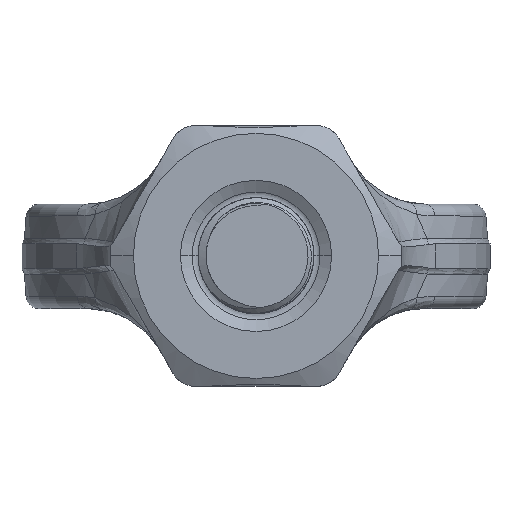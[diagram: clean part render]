
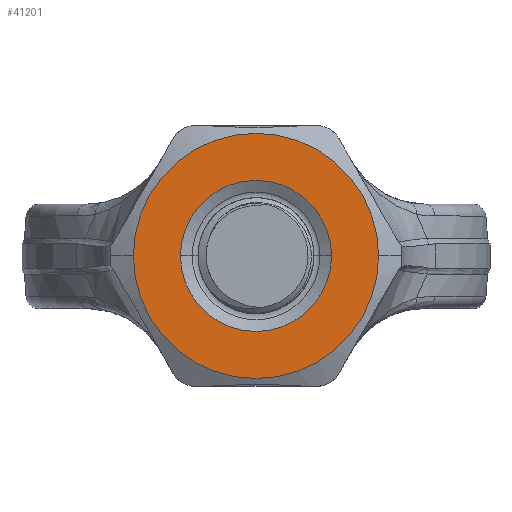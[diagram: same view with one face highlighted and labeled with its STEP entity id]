
A CAD part, top view. The second image highlights one B-rep face of the part: STEP entity #41201.
In plain terms, the highlighted planar face has unit normal (0, 0, 1).
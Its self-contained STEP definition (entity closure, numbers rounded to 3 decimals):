
#342 = EDGE_CURVE ( 'NONE', #30231, #4648, #31722, .T. ) ;
#1132 = CARTESIAN_POINT ( 'NONE',  ( 23.5, 0., 58.15 ) ) ;
#3625 = VERTEX_POINT ( 'NONE', #41823 ) ;
#3833 = EDGE_CURVE ( 'NONE', #4648, #30231, #42287, .T. ) ;
#4285 = DIRECTION ( 'NONE',  ( 0., 0., 1. ) ) ;
#4648 = VERTEX_POINT ( 'NONE', #10209 ) ;
#4814 = AXIS2_PLACEMENT_3D ( 'NONE', #12177, #29762, #15717 ) ;
#4929 = ORIENTED_EDGE ( 'NONE', *, *, #3833, .F. ) ;
#7315 = DIRECTION ( 'NONE',  ( 1., 0., 0. ) ) ;
#9247 = EDGE_LOOP ( 'NONE', ( #17593, #4929 ) ) ;
#10209 = CARTESIAN_POINT ( 'NONE',  ( -14.477, 0., 58.15 ) ) ;
#12177 = CARTESIAN_POINT ( 'NONE',  ( 0., 0., 58.15 ) ) ;
#13282 = CIRCLE ( 'NONE', #39484, 23.5 ) ;
#13959 = DIRECTION ( 'NONE',  ( 1., 0., 0. ) ) ;
#15717 = DIRECTION ( 'NONE',  ( 1., 0., 0. ) ) ;
#17309 = EDGE_CURVE ( 'NONE', #3625, #21280, #18564, .T. ) ;
#17593 = ORIENTED_EDGE ( 'NONE', *, *, #342, .F. ) ;
#17932 = PLANE ( 'NONE',  #40924 ) ;
#18344 = CARTESIAN_POINT ( 'NONE',  ( 0., 0., 58.15 ) ) ;
#18371 = EDGE_CURVE ( 'NONE', #21280, #3625, #13282, .T. ) ;
#18564 = CIRCLE ( 'NONE', #38000, 23.5 ) ;
#20279 = ORIENTED_EDGE ( 'NONE', *, *, #17309, .T. ) ;
#20634 = DIRECTION ( 'NONE',  ( 0., 0., 1. ) ) ;
#21280 = VERTEX_POINT ( 'NONE', #1132 ) ;
#21453 = DIRECTION ( 'NONE',  ( 0., 0., 1. ) ) ;
#24510 = FACE_BOUND ( 'NONE', #9247, .T. ) ;
#25738 = EDGE_LOOP ( 'NONE', ( #20279, #43221 ) ) ;
#27729 = CARTESIAN_POINT ( 'NONE',  ( 14.477, 0., 58.15 ) ) ;
#28708 = CARTESIAN_POINT ( 'NONE',  ( 0., 14.477, 58.15 ) ) ;
#29599 = AXIS2_PLACEMENT_3D ( 'NONE', #40858, #4285, #44130 ) ;
#29762 = DIRECTION ( 'NONE',  ( 0., 0., 1. ) ) ;
#30231 = VERTEX_POINT ( 'NONE', #27729 ) ;
#31722 = CIRCLE ( 'NONE', #4814, 14.477 ) ;
#32640 = DIRECTION ( 'NONE',  ( 0., 0., 1. ) ) ;
#35378 = DIRECTION ( 'NONE',  ( 1., 0., 0. ) ) ;
#38000 = AXIS2_PLACEMENT_3D ( 'NONE', #18344, #32640, #7315 ) ;
#38429 = CARTESIAN_POINT ( 'NONE',  ( 0., 0., 58.15 ) ) ;
#39484 = AXIS2_PLACEMENT_3D ( 'NONE', #38429, #20634, #35378 ) ;
#39723 = FACE_OUTER_BOUND ( 'NONE', #25738, .T. ) ;
#40858 = CARTESIAN_POINT ( 'NONE',  ( 0., 0., 58.15 ) ) ;
#40924 = AXIS2_PLACEMENT_3D ( 'NONE', #28708, #21453, #13959 ) ;
#41201 = ADVANCED_FACE ( 'NONE', ( #39723, #24510 ), #17932, .T. ) ;
#41823 = CARTESIAN_POINT ( 'NONE',  ( -23.5, 0., 58.15 ) ) ;
#42287 = CIRCLE ( 'NONE', #29599, 14.477 ) ;
#43221 = ORIENTED_EDGE ( 'NONE', *, *, #18371, .T. ) ;
#44130 = DIRECTION ( 'NONE',  ( 1., 0., 0. ) ) ;
